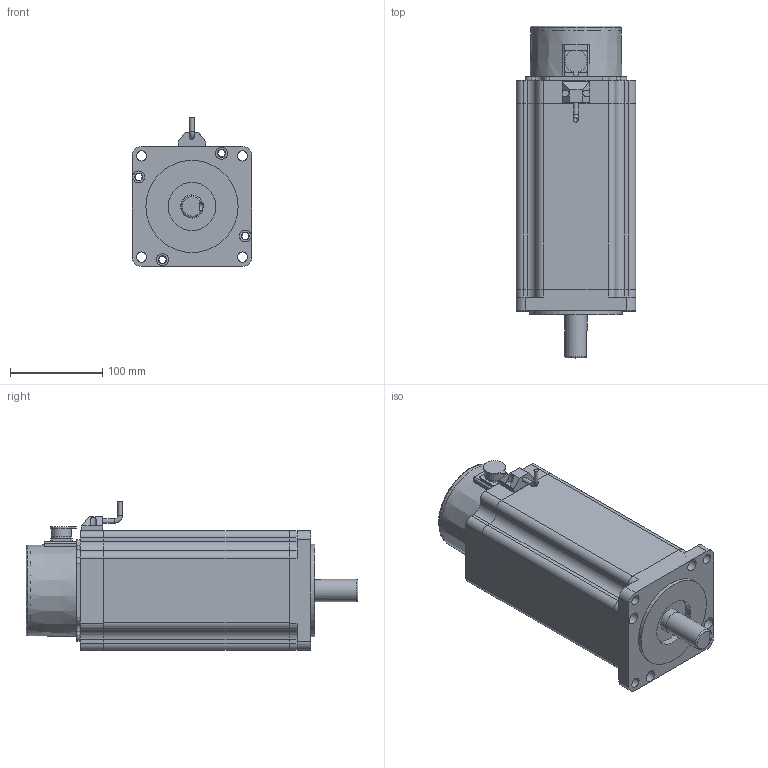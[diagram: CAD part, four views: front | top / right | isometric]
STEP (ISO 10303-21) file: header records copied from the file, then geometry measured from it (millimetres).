
FILE_DESCRIPTION(/* description */ (''),/* implementation_level */ '2;1');
FILE_NAME(/* name */ '130BYG350D.stp',/* time_stamp */ '2024-12-18T14:27:41+08:00',/* author */ (''),/* organization */ (''),/* preprocessor_version */ 'ST-DEVELOPER v18.1',/* originating_system */ 'SIEMENS PLM Software NX 2000',/* authorisation */ '');
FILE_SCHEMA (('AUTOMOTIVE_DESIGN { 1 0 10303 214 3 1 1 1 }'));
Length unit declared in the file: millimetre
Products named in the file (1): 92503CB85CA0kr1h
Bounding box: 130 x 360 x 161.44 mm (x, y, z)
Volume: 3772517.3 mm3; surface area: 334719 mm2
Topology: 9 solids, 9 shells, 414 faces, 1173 edges, 789 vertices
Faces by surface type: plane 301, cylinder 107, torus 4, cone 2
Full cylindrical faces by diameter (mm): 3 x4, 4.8 x2, 6.5 x4, 7 x1, 8 x4, 8.5 x12, 11 x4, 13 x4, 16.5 x1, 20.196 x2, 22.032 x1, 24 x1, 24.7 x1, 25 x1, 52 x1, 100 x1
Entity records: 13497 total; most frequent: CARTESIAN_POINT 2571, ORIENTED_EDGE 2176, DIRECTION 2124, EDGE_CURVE 1088, LINE 862, VECTOR 862, VERTEX_POINT 754, EDGE_LOOP 632
